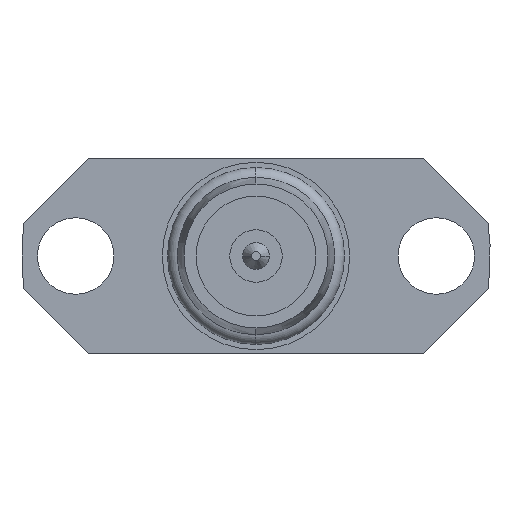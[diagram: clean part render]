
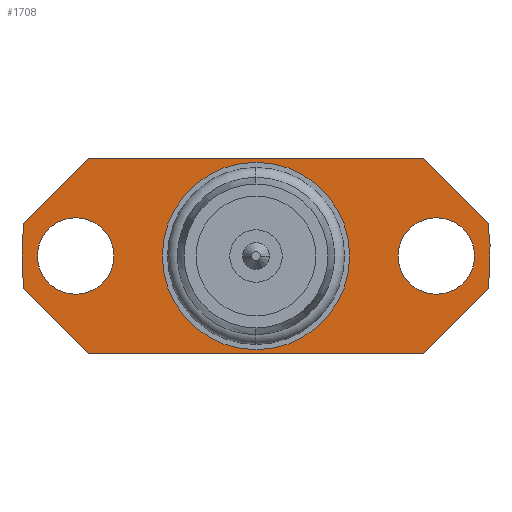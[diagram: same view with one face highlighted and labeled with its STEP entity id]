
A CAD part, left-side view. The second image highlights one B-rep face of the part: STEP entity #1708.
In plain terms, the highlighted planar face has unit normal (-1, 0, 0).
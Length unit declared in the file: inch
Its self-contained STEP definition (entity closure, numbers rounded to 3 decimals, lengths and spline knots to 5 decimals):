
#8 = VECTOR ( 'NONE', #1589, 39.37008 ) ;
#18 = ORIENTED_EDGE ( 'NONE', *, *, #1467, .T. ) ;
#63 = CIRCLE ( 'NONE', #457, 0.051 ) ;
#72 = CARTESIAN_POINT ( 'NONE',  ( 0.325, 0., -0.125 ) ) ;
#79 = AXIS2_PLACEMENT_3D ( 'NONE', #151, #2339, #1131 ) ;
#111 = ORIENTED_EDGE ( 'NONE', *, *, #1463, .T. ) ;
#123 = DIRECTION ( 'NONE',  ( 0., 0., 1. ) ) ;
#132 = DIRECTION ( 'NONE',  ( -1., 0., 0. ) ) ;
#148 = CARTESIAN_POINT ( 'NONE',  ( 0.325, 0.30936, 0.04419 ) ) ;
#151 = CARTESIAN_POINT ( 'NONE',  ( 0.325, -0.2405, 0. ) ) ;
#167 = ORIENTED_EDGE ( 'NONE', *, *, #1309, .F. ) ;
#205 = ORIENTED_EDGE ( 'NONE', *, *, #1473, .F. ) ;
#219 = CIRCLE ( 'NONE', #475, 0.3125 ) ;
#242 = ORIENTED_EDGE ( 'NONE', *, *, #1448, .T. ) ;
#295 = DIRECTION ( 'NONE',  ( -1., 0., 0. ) ) ;
#297 = DIRECTION ( 'NONE',  ( 0., 1., 0. ) ) ;
#342 = ORIENTED_EDGE ( 'NONE', *, *, #1475, .F. ) ;
#359 = CARTESIAN_POINT ( 'NONE',  ( 0.325, 0.2405, 0. ) ) ;
#392 = VERTEX_POINT ( 'NONE', #1897 ) ;
#397 = VECTOR ( 'NONE', #1672, 39.37008 ) ;
#445 = AXIS2_PLACEMENT_3D ( 'NONE', #1478, #1656, #1193 ) ;
#453 = DIRECTION ( 'NONE',  ( 1., 0., 0. ) ) ;
#457 = AXIS2_PLACEMENT_3D ( 'NONE', #359, #1748, #1773 ) ;
#465 = AXIS2_PLACEMENT_3D ( 'NONE', #1533, #1095, #2171 ) ;
#468 = AXIS2_PLACEMENT_3D ( 'NONE', #1694, #295, #123 ) ;
#475 = AXIS2_PLACEMENT_3D ( 'NONE', #1539, #132, #1329 ) ;
#482 = CARTESIAN_POINT ( 'NONE',  ( 0.325, -0.11428, -0.23928 ) ) ;
#497 = LINE ( 'NONE', #706, #1517 ) ;
#506 = CARTESIAN_POINT ( 'NONE',  ( 0.325, 0.22355, -0.13 ) ) ;
#538 = ORIENTED_EDGE ( 'NONE', *, *, #1575, .T. ) ;
#588 = FACE_BOUND ( 'NONE', #1339, .T. ) ;
#591 = AXIS2_PLACEMENT_3D ( 'NONE', #2226, #972, #2077 ) ;
#631 = CIRCLE ( 'NONE', #468, 0.3125 ) ;
#638 = ORIENTED_EDGE ( 'NONE', *, *, #1469, .F. ) ;
#694 = ORIENTED_EDGE ( 'NONE', *, *, #1487, .F. ) ;
#706 = CARTESIAN_POINT ( 'NONE',  ( 0.325, 0.125, 0.13 ) ) ;
#728 = VERTEX_POINT ( 'NONE', #740 ) ;
#740 = CARTESIAN_POINT ( 'NONE',  ( 0.325, 0.30936, -0.04419 ) ) ;
#755 = CARTESIAN_POINT ( 'NONE',  ( 0.325, 0.23928, -0.11428 ) ) ;
#852 = CARTESIAN_POINT ( 'NONE',  ( 0.325, 0.2405, 0.051 ) ) ;
#859 = AXIS2_PLACEMENT_3D ( 'NONE', #1334, #2324, #1110 ) ;
#885 = VERTEX_POINT ( 'NONE', #148 ) ;
#889 = LINE ( 'NONE', #1569, #2263 ) ;
#892 = CARTESIAN_POINT ( 'NONE',  ( 0.325, -0.11428, 0.23928 ) ) ;
#920 = CARTESIAN_POINT ( 'NONE',  ( 0.325, -0.22355, 0.13 ) ) ;
#939 = DIRECTION ( 'NONE',  ( 0., 0.707, 0.707 ) ) ;
#972 = DIRECTION ( 'NONE',  ( -1., 0., 0. ) ) ;
#973 = EDGE_CURVE ( 'NONE', #1109, #1294, #1163, .T. ) ;
#1011 = CARTESIAN_POINT ( 'NONE',  ( 0.325, 0.22355, 0.13 ) ) ;
#1018 = LINE ( 'NONE', #892, #8 ) ;
#1078 = CIRCLE ( 'NONE', #465, 0.051 ) ;
#1095 = DIRECTION ( 'NONE',  ( 1., 0., 0. ) ) ;
#1106 = FACE_BOUND ( 'NONE', #2016, .T. ) ;
#1109 = VERTEX_POINT ( 'NONE', #852 ) ;
#1110 = DIRECTION ( 'NONE',  ( 0., 0., -1. ) ) ;
#1131 = DIRECTION ( 'NONE',  ( 0., 0., -1. ) ) ;
#1138 = CARTESIAN_POINT ( 'NONE',  ( 0.325, -0.30936, 0.04419 ) ) ;
#1148 = DIRECTION ( 'NONE',  ( 0., -0.707, 0.707 ) ) ;
#1163 = CIRCLE ( 'NONE', #859, 0.051 ) ;
#1164 = AXIS2_PLACEMENT_3D ( 'NONE', #2130, #453, #2075 ) ;
#1193 = DIRECTION ( 'NONE',  ( 0., 0., 1. ) ) ;
#1197 = ORIENTED_EDGE ( 'NONE', *, *, #1464, .T. ) ;
#1201 = VERTEX_POINT ( 'NONE', #72 ) ;
#1241 = PLANE ( 'NONE',  #1164 ) ;
#1294 = VERTEX_POINT ( 'NONE', #1610 ) ;
#1309 = EDGE_CURVE ( 'NONE', #1733, #1201, #1366, .T. ) ;
#1329 = DIRECTION ( 'NONE',  ( 0., 0., 1. ) ) ;
#1334 = CARTESIAN_POINT ( 'NONE',  ( 0.325, 0.2405, 0. ) ) ;
#1339 = EDGE_LOOP ( 'NONE', ( #18, #2034 ) ) ;
#1366 = CIRCLE ( 'NONE', #591, 0.125 ) ;
#1417 = VERTEX_POINT ( 'NONE', #1138 ) ;
#1448 = EDGE_CURVE ( 'NONE', #392, #1417, #219, .T. ) ;
#1454 = VECTOR ( 'NONE', #1148, 39.37008 ) ;
#1463 = EDGE_CURVE ( 'NONE', #885, #728, #631, .T. ) ;
#1464 = EDGE_CURVE ( 'NONE', #2347, #2159, #1078, .T. ) ;
#1467 = EDGE_CURVE ( 'NONE', #1294, #1109, #63, .T. ) ;
#1469 = EDGE_CURVE ( 'NONE', #1201, #1733, #2006, .T. ) ;
#1473 = EDGE_CURVE ( 'NONE', #1864, #1417, #1018, .T. ) ;
#1475 = EDGE_CURVE ( 'NONE', #1743, #1864, #497, .T. ) ;
#1478 = CARTESIAN_POINT ( 'NONE',  ( 0.325, 0., 0. ) ) ;
#1483 = CARTESIAN_POINT ( 'NONE',  ( 0.325, -0.2405, 0.051 ) ) ;
#1484 = EDGE_CURVE ( 'NONE', #885, #1743, #1953, .T. ) ;
#1485 = LINE ( 'NONE', #482, #397 ) ;
#1487 = EDGE_CURVE ( 'NONE', #1839, #728, #2308, .T. ) ;
#1491 = EDGE_CURVE ( 'NONE', #2244, #1839, #889, .T. ) ;
#1495 = EDGE_CURVE ( 'NONE', #392, #2244, #1485, .T. ) ;
#1517 = VECTOR ( 'NONE', #1761, 39.37008 ) ;
#1533 = CARTESIAN_POINT ( 'NONE',  ( 0.325, -0.2405, 0. ) ) ;
#1539 = CARTESIAN_POINT ( 'NONE',  ( 0.325, 0., 0. ) ) ;
#1569 = CARTESIAN_POINT ( 'NONE',  ( 0.325, 0.125, -0.13 ) ) ;
#1575 = EDGE_CURVE ( 'NONE', #2159, #2347, #2132, .T. ) ;
#1589 = DIRECTION ( 'NONE',  ( 0., -0.707, -0.707 ) ) ;
#1610 = CARTESIAN_POINT ( 'NONE',  ( 0.325, 0.2405, -0.051 ) ) ;
#1647 = FACE_BOUND ( 'NONE', #1739, .T. ) ;
#1656 = DIRECTION ( 'NONE',  ( -1., 0., 0. ) ) ;
#1670 = CARTESIAN_POINT ( 'NONE',  ( 0.325, -0.22355, -0.13 ) ) ;
#1672 = DIRECTION ( 'NONE',  ( 0., 0.707, -0.707 ) ) ;
#1676 = EDGE_LOOP ( 'NONE', ( #205, #342, #2221, #111, #694, #2219, #2272, #242 ) ) ;
#1694 = CARTESIAN_POINT ( 'NONE',  ( 0.325, 0., 0. ) ) ;
#1708 = ADVANCED_FACE ( 'NONE', ( #1647, #588, #1106, #2078 ), #1241, .F. ) ;
#1733 = VERTEX_POINT ( 'NONE', #1916 ) ;
#1739 = EDGE_LOOP ( 'NONE', ( #1197, #538 ) ) ;
#1743 = VERTEX_POINT ( 'NONE', #1011 ) ;
#1748 = DIRECTION ( 'NONE',  ( 1., 0., 0. ) ) ;
#1761 = DIRECTION ( 'NONE',  ( 0., -1., 0. ) ) ;
#1773 = DIRECTION ( 'NONE',  ( 0., 0., -1. ) ) ;
#1839 = VERTEX_POINT ( 'NONE', #506 ) ;
#1864 = VERTEX_POINT ( 'NONE', #920 ) ;
#1897 = CARTESIAN_POINT ( 'NONE',  ( 0.325, -0.30936, -0.04419 ) ) ;
#1908 = VECTOR ( 'NONE', #939, 39.37008 ) ;
#1916 = CARTESIAN_POINT ( 'NONE',  ( 0.325, 0., 0.125 ) ) ;
#1953 = LINE ( 'NONE', #2222, #1454 ) ;
#2006 = CIRCLE ( 'NONE', #445, 0.125 ) ;
#2016 = EDGE_LOOP ( 'NONE', ( #167, #638 ) ) ;
#2034 = ORIENTED_EDGE ( 'NONE', *, *, #973, .T. ) ;
#2075 = DIRECTION ( 'NONE',  ( 0., 0., -1. ) ) ;
#2077 = DIRECTION ( 'NONE',  ( 0., 0., 1. ) ) ;
#2078 = FACE_OUTER_BOUND ( 'NONE', #1676, .T. ) ;
#2130 = CARTESIAN_POINT ( 'NONE',  ( 0.325, 0.125, 0. ) ) ;
#2132 = CIRCLE ( 'NONE', #79, 0.051 ) ;
#2159 = VERTEX_POINT ( 'NONE', #1483 ) ;
#2171 = DIRECTION ( 'NONE',  ( 0., 0., -1. ) ) ;
#2187 = CARTESIAN_POINT ( 'NONE',  ( 0.325, -0.2405, -0.051 ) ) ;
#2219 = ORIENTED_EDGE ( 'NONE', *, *, #1491, .F. ) ;
#2221 = ORIENTED_EDGE ( 'NONE', *, *, #1484, .F. ) ;
#2222 = CARTESIAN_POINT ( 'NONE',  ( 0.325, 0.23928, 0.11428 ) ) ;
#2226 = CARTESIAN_POINT ( 'NONE',  ( 0.325, 0., 0. ) ) ;
#2244 = VERTEX_POINT ( 'NONE', #1670 ) ;
#2263 = VECTOR ( 'NONE', #297, 39.37008 ) ;
#2272 = ORIENTED_EDGE ( 'NONE', *, *, #1495, .F. ) ;
#2308 = LINE ( 'NONE', #755, #1908 ) ;
#2324 = DIRECTION ( 'NONE',  ( 1., 0., 0. ) ) ;
#2339 = DIRECTION ( 'NONE',  ( 1., 0., 0. ) ) ;
#2347 = VERTEX_POINT ( 'NONE', #2187 ) ;
